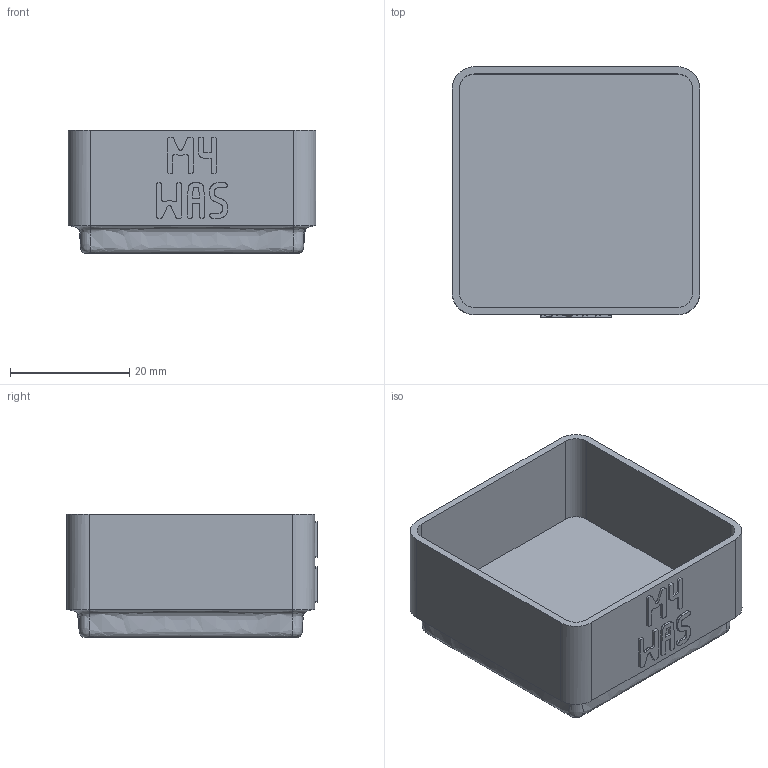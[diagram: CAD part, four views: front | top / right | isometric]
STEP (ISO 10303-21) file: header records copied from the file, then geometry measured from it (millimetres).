
FILE_DESCRIPTION(('Open CASCADE Model'),'2;1');
FILE_NAME('Open CASCADE Shape Model','2026-11-03T15:27:50',('Author'),( 'Open CASCADE'),'Open CASCADE STEP processor 8.0','build123d', 'Unknown');
FILE_SCHEMA(('AUTOMOTIVE_DESIGN { 1 0 10303 214 1 1 1 1 }'));
Length unit declared in the file: millimetre
Products named in the file (1): COMPOUND
Bounding box: 41.5 x 41.9 x 20.75 mm (x, y, z)
Volume: 9649.8 mm3; surface area: 8987.4 mm2
Topology: 1 solids, 1 shells, 594 faces, 1747 edges, 1162 vertices
Faces by surface type: plane 578, bspline 8, cylinder 8
Entity records: 41366 total; most frequent: CARTESIAN_POINT 8708, DIRECTION 5249, LINE 4047, VECTOR 4047, ORIENTED_EDGE 3494, PCURVE 3494, DEFINITIONAL_REPRESENTATION 3494, EDGE_CURVE 1747
